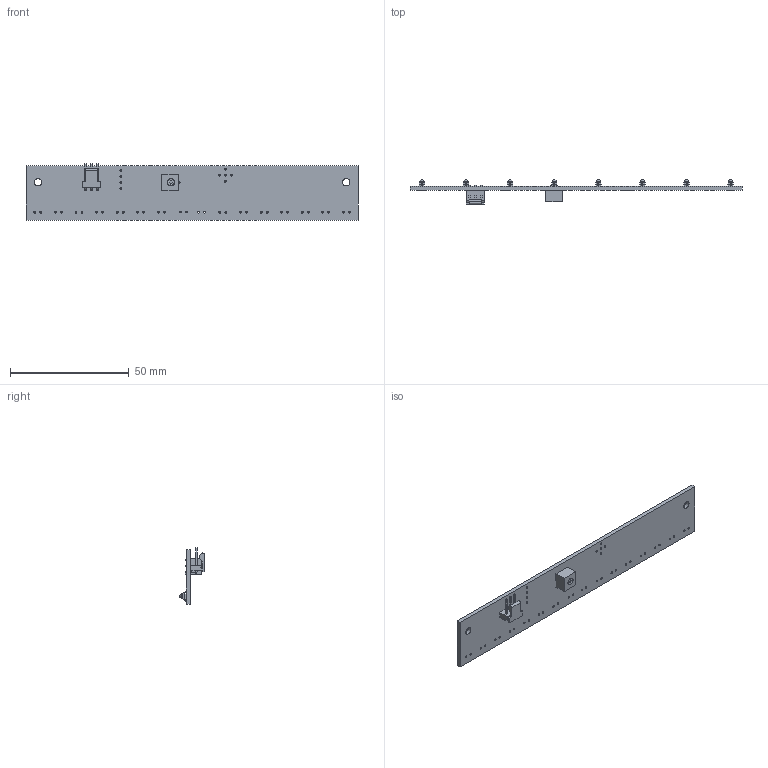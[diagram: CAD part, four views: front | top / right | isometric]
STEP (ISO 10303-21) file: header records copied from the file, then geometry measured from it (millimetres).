
FILE_DESCRIPTION(/* description */ (''),/* implementation_level */ '2;1');
FILE_NAME(/* name */ 'C:\Users\Andrea\SynologyDrive\Optoscan\Libreria Componenti\Eos\EOS_08\Eos_08-140\Esportazioni\EOS 08-140 SEp1 MTAp_TX.stp',/* time_stamp */ '2023-07-10T12:05:17+02:00',/* author */ ('Andrea'),/* organization */ (''),/* preprocessor_version */ 'ST-DEVELOPER v18.1',/* originating_system */ 'Autodesk Inventor 2022',/* authorisation */ '');
FILE_SCHEMA (('AUTOMOTIVE_DESIGN { 1 0 10303 214 3 1 1 }'));
Length unit declared in the file: millimetre
Products named in the file (1): EOS 08-140 SEp1 MTAp_TX
Bounding box: 139.98 x 10.32 x 23.74 mm (x, y, z)
Volume: 5685 mm3; surface area: 7836.5 mm2
Topology: 1 solids, 1 shells, 914 faces, 2377 edges, 1540 vertices
Faces by surface type: plane 681, cylinder 176, torus 21, sphere 20, bspline 8, cone 8
Full cylindrical faces by diameter (mm): 0.46 x3, 0.8 x46, 1.8 x8, 3.1 x2
Entity records: 29039 total; most frequent: CARTESIAN_POINT 5088, ORIENTED_EDGE 4738, DIRECTION 4572, EDGE_CURVE 2369, LINE 1948, VECTOR 1948, VERTEX_POINT 1540, AXIS2_PLACEMENT_3D 1312
